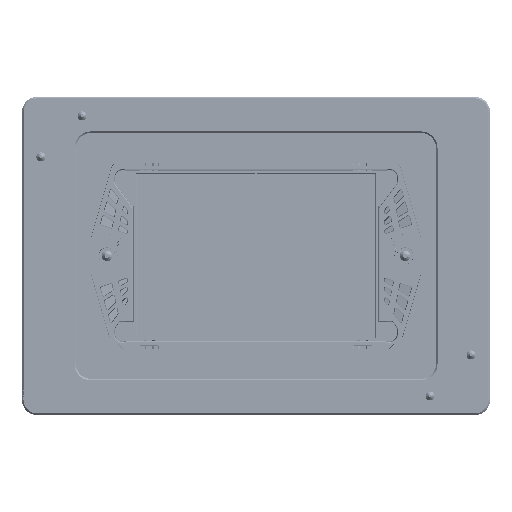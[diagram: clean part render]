
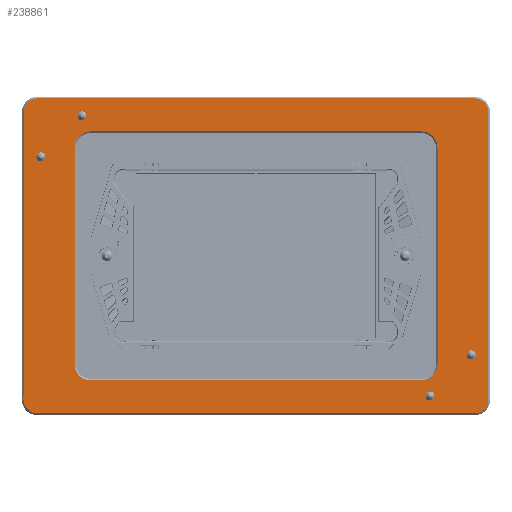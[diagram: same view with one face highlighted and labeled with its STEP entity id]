
A CAD part, top view. The second image highlights one B-rep face of the part: STEP entity #238861.
In plain terms, the highlighted planar face has unit normal (0, 0, 1).
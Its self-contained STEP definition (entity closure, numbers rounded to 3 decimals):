
#20173=LINE('',#379504,#34154);
#20174=LINE('',#379509,#34155);
#20175=LINE('',#379513,#34156);
#20176=LINE('',#379517,#34157);
#20177=LINE('',#379520,#34158);
#20178=LINE('',#379525,#34159);
#20179=LINE('',#379529,#34160);
#20180=LINE('',#379533,#34161);
#34154=VECTOR('',#291535,1000.);
#34155=VECTOR('',#291538,1000.);
#34156=VECTOR('',#291541,1000.);
#34157=VECTOR('',#291544,1000.);
#34158=VECTOR('',#291547,1000.);
#34159=VECTOR('',#291550,1000.);
#34160=VECTOR('',#291553,1000.);
#34161=VECTOR('',#291556,1000.);
#39609=PLANE('',#251866);
#42173=CIRCLE('',#251867,4.5);
#42174=CIRCLE('',#251868,4.5);
#42175=CIRCLE('',#251869,4.5);
#42176=CIRCLE('',#251870,4.5);
#42177=CIRCLE('',#251871,5.5);
#42178=CIRCLE('',#251872,5.5);
#42179=CIRCLE('',#251873,5.5);
#42180=CIRCLE('',#251874,5.5);
#42181=CIRCLE('',#251875,1.5);
#42182=CIRCLE('',#251876,1.5);
#42183=CIRCLE('',#251877,1.5);
#42184=CIRCLE('',#251878,1.5);
#91201=ORIENTED_EDGE('',*,*,#116157,.T.);
#91202=ORIENTED_EDGE('',*,*,#116158,.T.);
#91203=ORIENTED_EDGE('',*,*,#116159,.T.);
#91204=ORIENTED_EDGE('',*,*,#116160,.T.);
#91205=ORIENTED_EDGE('',*,*,#116161,.T.);
#91206=ORIENTED_EDGE('',*,*,#116162,.T.);
#91207=ORIENTED_EDGE('',*,*,#116163,.T.);
#91208=ORIENTED_EDGE('',*,*,#116164,.T.);
#91209=ORIENTED_EDGE('',*,*,#116165,.T.);
#91210=ORIENTED_EDGE('',*,*,#116166,.T.);
#91211=ORIENTED_EDGE('',*,*,#116167,.T.);
#91212=ORIENTED_EDGE('',*,*,#116168,.T.);
#91213=ORIENTED_EDGE('',*,*,#116169,.T.);
#91214=ORIENTED_EDGE('',*,*,#116170,.T.);
#91215=ORIENTED_EDGE('',*,*,#116171,.T.);
#91216=ORIENTED_EDGE('',*,*,#116172,.T.);
#91217=ORIENTED_EDGE('',*,*,#116173,.T.);
#91218=ORIENTED_EDGE('',*,*,#116174,.T.);
#91219=ORIENTED_EDGE('',*,*,#116175,.T.);
#91220=ORIENTED_EDGE('',*,*,#116176,.T.);
#116157=EDGE_CURVE('',#131672,#131673,#20173,.T.);
#116158=EDGE_CURVE('',#131673,#131674,#42173,.F.);
#116159=EDGE_CURVE('',#131674,#131675,#20174,.T.);
#116160=EDGE_CURVE('',#131675,#131676,#42174,.F.);
#116161=EDGE_CURVE('',#131676,#131677,#20175,.T.);
#116162=EDGE_CURVE('',#131677,#131678,#42175,.F.);
#116163=EDGE_CURVE('',#131678,#131679,#20176,.T.);
#116164=EDGE_CURVE('',#131679,#131672,#42176,.F.);
#116165=EDGE_CURVE('',#131680,#131681,#20177,.T.);
#116166=EDGE_CURVE('',#131681,#131682,#42177,.T.);
#116167=EDGE_CURVE('',#131682,#131683,#20178,.T.);
#116168=EDGE_CURVE('',#131683,#131684,#42178,.T.);
#116169=EDGE_CURVE('',#131684,#131685,#20179,.T.);
#116170=EDGE_CURVE('',#131685,#131686,#42179,.T.);
#116171=EDGE_CURVE('',#131686,#131687,#20180,.T.);
#116172=EDGE_CURVE('',#131687,#131680,#42180,.T.);
#116173=EDGE_CURVE('',#131688,#131688,#42181,.T.);
#116174=EDGE_CURVE('',#131689,#131689,#42182,.T.);
#116175=EDGE_CURVE('',#131690,#131690,#42183,.T.);
#116176=EDGE_CURVE('',#131691,#131691,#42184,.T.);
#131672=VERTEX_POINT('',#379505);
#131673=VERTEX_POINT('',#379506);
#131674=VERTEX_POINT('',#379508);
#131675=VERTEX_POINT('',#379510);
#131676=VERTEX_POINT('',#379512);
#131677=VERTEX_POINT('',#379514);
#131678=VERTEX_POINT('',#379516);
#131679=VERTEX_POINT('',#379518);
#131680=VERTEX_POINT('',#379521);
#131681=VERTEX_POINT('',#379522);
#131682=VERTEX_POINT('',#379524);
#131683=VERTEX_POINT('',#379526);
#131684=VERTEX_POINT('',#379528);
#131685=VERTEX_POINT('',#379530);
#131686=VERTEX_POINT('',#379532);
#131687=VERTEX_POINT('',#379534);
#131688=VERTEX_POINT('',#379537);
#131689=VERTEX_POINT('',#379539);
#131690=VERTEX_POINT('',#379541);
#131691=VERTEX_POINT('',#379543);
#148646=EDGE_LOOP('',(#91201,#91202,#91203,#91204,#91205,#91206,#91207,
#91208));
#148647=EDGE_LOOP('',(#91209,#91210,#91211,#91212,#91213,#91214,#91215,
#91216));
#148648=EDGE_LOOP('',(#91217));
#148649=EDGE_LOOP('',(#91218));
#148650=EDGE_LOOP('',(#91219));
#148651=EDGE_LOOP('',(#91220));
#159431=FACE_BOUND('',#148646,.T.);
#159432=FACE_BOUND('',#148647,.T.);
#159433=FACE_BOUND('',#148648,.T.);
#159434=FACE_BOUND('',#148649,.T.);
#159435=FACE_BOUND('',#148650,.T.);
#159436=FACE_BOUND('',#148651,.T.);
#238861=ADVANCED_FACE('',(#159431,#159432,#159433,#159434,#159435,#159436),
#39609,.F.);
#251866=AXIS2_PLACEMENT_3D('',#379503,#291533,#291534);
#251867=AXIS2_PLACEMENT_3D('',#379507,#291536,#291537);
#251868=AXIS2_PLACEMENT_3D('',#379511,#291539,#291540);
#251869=AXIS2_PLACEMENT_3D('',#379515,#291542,#291543);
#251870=AXIS2_PLACEMENT_3D('',#379519,#291545,#291546);
#251871=AXIS2_PLACEMENT_3D('',#379523,#291548,#291549);
#251872=AXIS2_PLACEMENT_3D('',#379527,#291551,#291552);
#251873=AXIS2_PLACEMENT_3D('',#379531,#291554,#291555);
#251874=AXIS2_PLACEMENT_3D('',#379535,#291557,#291558);
#251875=AXIS2_PLACEMENT_3D('',#379536,#291559,#291560);
#251876=AXIS2_PLACEMENT_3D('',#379538,#291561,#291562);
#251877=AXIS2_PLACEMENT_3D('',#379540,#291563,#291564);
#251878=AXIS2_PLACEMENT_3D('',#379542,#291565,#291566);
#291533=DIRECTION('',(0.,0.,-1.));
#291534=DIRECTION('',(-1.,0.,0.));
#291535=DIRECTION('',(-1.,0.,0.));
#291536=DIRECTION('',(0.,0.,-1.));
#291537=DIRECTION('',(-1.,0.,0.));
#291538=DIRECTION('',(0.,-1.,0.));
#291539=DIRECTION('',(0.,0.,-1.));
#291540=DIRECTION('',(-1.,0.,0.));
#291541=DIRECTION('',(1.,0.,0.));
#291542=DIRECTION('',(0.,0.,-1.));
#291543=DIRECTION('',(-1.,0.,0.));
#291544=DIRECTION('',(0.,1.,0.));
#291545=DIRECTION('',(0.,0.,-1.));
#291546=DIRECTION('',(-1.,0.,0.));
#291547=DIRECTION('',(-1.,0.,0.));
#291548=DIRECTION('',(0.,0.,-1.));
#291549=DIRECTION('',(-1.,0.,0.));
#291550=DIRECTION('',(0.,1.,0.));
#291551=DIRECTION('',(0.,0.,-1.));
#291552=DIRECTION('',(-1.,0.,0.));
#291553=DIRECTION('',(1.,0.,0.));
#291554=DIRECTION('',(0.,0.,-1.));
#291555=DIRECTION('',(-1.,0.,0.));
#291556=DIRECTION('',(0.,-1.,0.));
#291557=DIRECTION('',(0.,0.,-1.));
#291558=DIRECTION('',(-1.,0.,0.));
#291559=DIRECTION('',(0.,0.,-1.));
#291560=DIRECTION('',(0.,-1.,0.));
#291561=DIRECTION('',(0.,0.,-1.));
#291562=DIRECTION('',(0.,-1.,0.));
#291563=DIRECTION('',(0.,0.,-1.));
#291564=DIRECTION('',(0.,-1.,0.));
#291565=DIRECTION('',(0.,0.,-1.));
#291566=DIRECTION('',(0.,-1.,0.));
#379503=CARTESIAN_POINT('',(0.,0.,30.));
#379504=CARTESIAN_POINT('',(-73.,52.5,30.));
#379505=CARTESIAN_POINT('',(73.,52.5,30.));
#379506=CARTESIAN_POINT('',(-73.,52.5,30.));
#379507=CARTESIAN_POINT('',(-73.,48.,30.));
#379508=CARTESIAN_POINT('',(-77.5,48.,30.));
#379509=CARTESIAN_POINT('',(-77.5,-48.,30.));
#379510=CARTESIAN_POINT('',(-77.5,-48.,30.));
#379511=CARTESIAN_POINT('',(-73.,-48.,30.));
#379512=CARTESIAN_POINT('',(-73.,-52.5,30.));
#379513=CARTESIAN_POINT('',(73.,-52.5,30.));
#379514=CARTESIAN_POINT('',(73.,-52.5,30.));
#379515=CARTESIAN_POINT('',(73.,-48.,30.));
#379516=CARTESIAN_POINT('',(77.5,-48.,30.));
#379517=CARTESIAN_POINT('',(77.5,48.,30.));
#379518=CARTESIAN_POINT('',(77.5,48.,30.));
#379519=CARTESIAN_POINT('',(73.,48.,30.));
#379520=CARTESIAN_POINT('',(-55.,-41.5,30.));
#379521=CARTESIAN_POINT('',(55.,-41.5,30.));
#379522=CARTESIAN_POINT('',(-55.,-41.5,30.));
#379523=CARTESIAN_POINT('',(-55.,-36.,30.));
#379524=CARTESIAN_POINT('',(-60.5,-36.,30.));
#379525=CARTESIAN_POINT('',(-60.5,36.,30.));
#379526=CARTESIAN_POINT('',(-60.5,36.,30.));
#379527=CARTESIAN_POINT('',(-55.,36.,30.));
#379528=CARTESIAN_POINT('',(-55.,41.5,30.));
#379529=CARTESIAN_POINT('',(55.,41.5,30.));
#379530=CARTESIAN_POINT('',(55.,41.5,30.));
#379531=CARTESIAN_POINT('',(55.,36.,30.));
#379532=CARTESIAN_POINT('',(60.5,36.,30.));
#379533=CARTESIAN_POINT('',(60.5,-36.,30.));
#379534=CARTESIAN_POINT('',(60.5,-36.,30.));
#379535=CARTESIAN_POINT('',(55.,-36.,30.));
#379536=CARTESIAN_POINT('',(71.7,-33.,30.));
#379537=CARTESIAN_POINT('',(71.7,-34.5,30.));
#379538=CARTESIAN_POINT('',(58.,-46.7,30.));
#379539=CARTESIAN_POINT('',(58.,-48.2,30.));
#379540=CARTESIAN_POINT('',(-71.7,33.,30.));
#379541=CARTESIAN_POINT('',(-71.7,31.5,30.));
#379542=CARTESIAN_POINT('',(-58.,46.7,30.));
#379543=CARTESIAN_POINT('',(-58.,45.2,30.));
